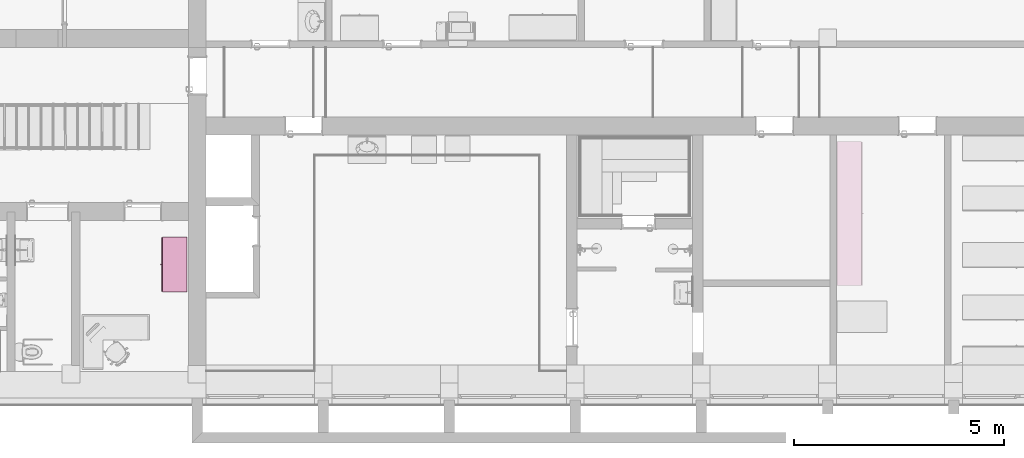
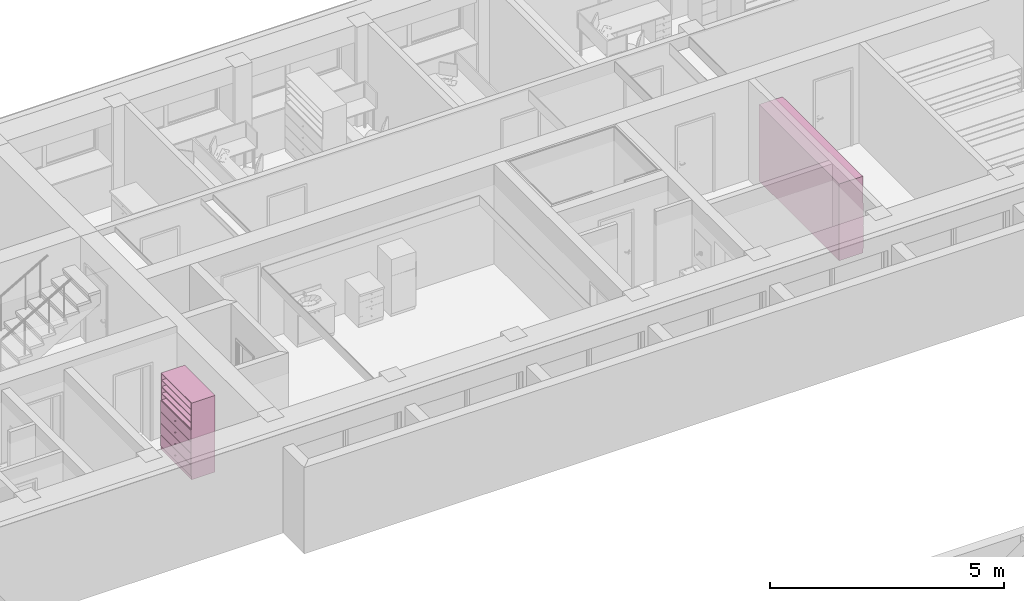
# One storey, part 103 of 127: 2 furnishings.
"""IFC2X3 building model written with IfcOpenShell, lengths in millimetres."""

from ifc_helpers import new_model, entity, si_unit, converted_unit, derived_unit, money_unit, direction, frame, origin_with_axes, place, context, subcontext, project, spatial, faceted_brep, type_object, element, save


model = new_model("IFC2X3")

# Units and contexts
model_context = context("Model", 3, precision=1e-05, world=origin_with_axes(), true_north=direction((0.0, 1.0)))
body_context = subcontext(model_context, "Body", "Model", "MODEL_VIEW")
ifc_project = project(units=[si_unit("LENGTHUNIT", "METRE", prefix="MILLI"), si_unit("AREAUNIT", "SQUARE_METRE"), si_unit("VOLUMEUNIT", "CUBIC_METRE"), converted_unit("PLANEANGLEUNIT", "DEGREE", entity("IfcPlaneAngleMeasure", 0.0174532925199), si_unit("PLANEANGLEUNIT", "RADIAN"), dimensions=[0, 0, 0, 0, 0, 0, 0]), si_unit("SOLIDANGLEUNIT", "STERADIAN"), money_unit("EUR"), converted_unit("TIMEUNIT", "Year", entity("IfcTimeMeasure", 31556926.0), si_unit("TIMEUNIT", "SECOND"), dimensions=[0, 0, 1, 0, 0, 0, 0]), si_unit("MASSUNIT", "GRAM", prefix="KILO"), si_unit("THERMODYNAMICTEMPERATUREUNIT", "DEGREE_CELSIUS"), si_unit("LUMINOUSINTENSITYUNIT", "LUMEN"), si_unit("ENERGYUNIT", "JOULE", prefix="MEGA"), derived_unit("THERMALCONDUCTANCEUNIT", [(si_unit("POWERUNIT", "WATT"), 1), (si_unit("LENGTHUNIT", "METRE"), -1), (si_unit("THERMODYNAMICTEMPERATUREUNIT", "KELVIN"), -1)]), derived_unit("SPECIFICHEATCAPACITYUNIT", [(si_unit("ENERGYUNIT", "JOULE"), 1), (si_unit("MASSUNIT", "GRAM", prefix="KILO"), -1), (si_unit("THERMODYNAMICTEMPERATUREUNIT", "KELVIN"), -1)]), derived_unit("MASSDENSITYUNIT", [(si_unit("MASSUNIT", "GRAM", prefix="KILO"), 1), (si_unit("VOLUMEUNIT", "CUBIC_METRE"), -1)])], contexts=[model_context])

# Site, building, storey
site_placement = place(None, origin_with_axes())
site = spatial("IfcSite", under=ifc_project, at=site_placement, Name="Site", CompositionType="ELEMENT")
building_placement = place(site_placement, origin_with_axes())
building = spatial("IfcBuilding", under=site, at=building_placement, Name="Building", CompositionType="ELEMENT")
storey_placement = place(building_placement, origin_with_axes())
storey = spatial("IfcBuildingStorey", under=building, at=storey_placement, Name="1 KORRUS", CompositionType="ELEMENT", Elevation=0.0)

# Furnishings
furnishing_element_type_1 = type_object("IfcFurnishingElementType", Name="Model Element 47")
furnishing_1_placement = place(storey_placement, frame((15101.4050672, 61481.2440039, 0.0), z_axis=(0.0, 0.0, 1.0), x_axis=(0.0, -1.0, 0.0)))
element("IfcFurnishingElement", 1, at=furnishing_1_placement, inside=storey, type_object=furnishing_element_type_1, Name="FU - 003", context=body_context, shape_type="Brep", body=[
    faceted_brep([(-1300.0, 19.0, 0.0), (-1300.0, 600.000000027, 0.0), (0.0, 600.000000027, 0.0), (0.0, 19.0, 0.0), (-1300.0, 19.0, 100.0), (-1300.0, 600.000000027, 100.0), (0.0, 600.000000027, 100.0), (0.0, 19.0, 100.0)], [[[0, 1, 2, 3]], [[0, 4, 5, 1]], [[1, 5, 6, 2]], [[2, 6, 7, 3]], [[3, 7, 4, 0]], [[7, 6, 5, 4]]]),
    faceted_brep([(-19.0, 600.000000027, 119.0), (-19.0, 600.000000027, 1981.0), (-19.0, 581.000000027, 1981.0), (-19.0, 581.000000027, 119.0), (-1281.0, 600.000000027, 119.0), (-1281.0, 600.000000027, 1981.0), (-1281.0, 581.000000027, 1981.0), (-1281.0, 581.000000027, 119.0)], [[[0, 1, 2, 3]], [[4, 5, 1, 0]], [[1, 5, 6, 2]], [[3, 2, 6, 7]], [[0, 3, 7, 4]], [[7, 6, 5, 4]]]),
    faceted_brep([(-1300.0, 19.0, 100.0), (-1300.0, 600.000000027, 100.0), (-1281.0, 600.000000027, 100.0), (-1281.0, 19.0, 100.0), (-1300.0, 19.0, 2000.0), (-1300.0, 600.000000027, 2000.0), (-1281.0, 600.000000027, 2000.0), (-1281.0, 19.0, 2000.0)], [[[0, 1, 2, 3]], [[0, 4, 5, 1]], [[1, 5, 6, 2]], [[2, 6, 7, 3]], [[3, 7, 4, 0]], [[7, 6, 5, 4]]]),
    faceted_brep([(-19.0, 19.0, 100.0), (-19.0, 600.000000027, 100.0), (0.0, 600.000000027, 100.0), (0.0, 19.0, 100.0), (-19.0, 19.0, 2000.0), (-19.0, 600.000000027, 2000.0), (0.0, 600.000000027, 2000.0), (0.0, 19.0, 2000.0)], [[[0, 1, 2, 3]], [[0, 4, 5, 1]], [[1, 5, 6, 2]], [[2, 6, 7, 3]], [[3, 7, 4, 0]], [[7, 6, 5, 4]]]),
    faceted_brep([(-1281.0, 19.0, 100.0), (-1281.0, 600.000000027, 100.0), (-19.0, 600.000000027, 100.0), (-19.0, 19.0, 100.0), (-1281.0, 19.0, 119.0), (-1281.0, 600.000000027, 119.0), (-19.0, 600.000000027, 119.0), (-19.0, 19.0, 119.0)], [[[0, 1, 2, 3]], [[0, 4, 5, 1]], [[1, 5, 6, 2]], [[2, 6, 7, 3]], [[3, 7, 4, 0]], [[7, 6, 5, 4]]]),
    faceted_brep([(-1281.0, 19.0, 1981.0), (-1281.0, 600.000000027, 1981.0), (-19.0, 600.000000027, 1981.0), (-19.0, 19.0, 1981.0), (-1281.0, 19.0, 2000.0), (-1281.0, 600.000000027, 2000.0), (-19.0, 600.000000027, 2000.0), (-19.0, 19.0, 2000.0)], [[[0, 1, 2, 3]], [[0, 4, 5, 1]], [[1, 5, 6, 2]], [[2, 6, 7, 3]], [[3, 7, 4, 0]], [[7, 6, 5, 4]]]),
    faceted_brep([(-5.0, 19.0, 105.0), (-5.0, 0.0, 105.0), (-1295.0, 0.0, 105.0), (-1295.0, 19.0, 105.0), (-5.0, 19.0, 395.0), (-5.0, 0.0, 395.0), (-1295.0, 0.0, 395.0), (-1295.0, 19.0, 395.0)], [[[0, 1, 2, 3]], [[4, 5, 1, 0]], [[1, 5, 6, 2]], [[3, 2, 6, 7]], [[0, 3, 7, 4]], [[7, 6, 5, 4]]]),
    faceted_brep([(-660.392304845, 0.0, 244.0), (-662.0, 0.0, 250.0), (-660.392304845, 0.0, 256.0), (-656.0, 0.0, 260.392304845), (-650.0, 0.0, 262.0), (-644.0, 0.0, 260.392304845), (-639.607695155, 0.0, 256.0), (-638.0, 0.0, 250.0), (-639.607695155, 0.0, 244.0), (-644.0, 0.0, 239.607695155), (-650.0, 0.0, 238.0), (-656.0, 0.0, 239.607695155), (-660.392304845, -25.0, 244.0), (-662.0, -25.0, 250.0), (-660.392304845, -25.0, 256.0), (-656.0, -25.0, 260.392304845), (-650.0, -25.0, 262.0), (-644.0, -25.0, 260.392304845), (-639.607695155, -25.0, 256.0), (-638.0, -25.0, 250.0), (-639.607695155, -25.0, 244.0), (-644.0, -25.0, 239.607695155), (-650.0, -25.0, 238.0), (-656.0, -25.0, 239.607695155)], [[[0, 1, 2, 3, 4, 5, 6, 7, 8, 9, 10, 11]], [[0, 12, 13, 1]], [[1, 13, 14, 2]], [[2, 14, 15, 3]], [[3, 15, 16, 4]], [[4, 16, 17, 5]], [[5, 17, 18, 6]], [[6, 18, 19, 7]], [[7, 19, 20, 8]], [[8, 20, 21, 9]], [[9, 21, 22, 10]], [[10, 22, 23, 11]], [[11, 23, 12, 0]], [[12, 23, 22, 21, 20, 19, 18, 17, 16, 15, 14, 13]]]),
    faceted_brep([(-5.0, 19.0, 405.0), (-5.0, 0.0, 405.0), (-1295.0, 0.0, 405.0), (-1295.0, 19.0, 405.0), (-5.0, 19.0, 695.0), (-5.0, 0.0, 695.0), (-1295.0, 0.0, 695.0), (-1295.0, 19.0, 695.0)], [[[0, 1, 2, 3]], [[4, 5, 1, 0]], [[1, 5, 6, 2]], [[3, 2, 6, 7]], [[0, 3, 7, 4]], [[7, 6, 5, 4]]]),
    faceted_brep([(-660.392304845, 0.0, 544.0), (-662.0, 0.0, 550.0), (-660.392304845, 0.0, 556.0), (-656.0, 0.0, 560.392304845), (-650.0, 0.0, 562.0), (-644.0, 0.0, 560.392304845), (-639.607695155, 0.0, 556.0), (-638.0, 0.0, 550.0), (-639.607695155, 0.0, 544.0), (-644.0, 0.0, 539.607695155), (-650.0, 0.0, 538.0), (-656.0, 0.0, 539.607695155), (-660.392304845, -25.0, 544.0), (-662.0, -25.0, 550.0), (-660.392304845, -25.0, 556.0), (-656.0, -25.0, 560.392304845), (-650.0, -25.0, 562.0), (-644.0, -25.0, 560.392304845), (-639.607695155, -25.0, 556.0), (-638.0, -25.0, 550.0), (-639.607695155, -25.0, 544.0), (-644.0, -25.0, 539.607695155), (-650.0, -25.0, 538.0), (-656.0, -25.0, 539.607695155)], [[[0, 1, 2, 3, 4, 5, 6, 7, 8, 9, 10, 11]], [[0, 12, 13, 1]], [[1, 13, 14, 2]], [[2, 14, 15, 3]], [[3, 15, 16, 4]], [[4, 16, 17, 5]], [[5, 17, 18, 6]], [[6, 18, 19, 7]], [[7, 19, 20, 8]], [[8, 20, 21, 9]], [[9, 21, 22, 10]], [[10, 22, 23, 11]], [[11, 23, 12, 0]], [[12, 23, 22, 21, 20, 19, 18, 17, 16, 15, 14, 13]]]),
    faceted_brep([(-5.0, 19.0, 705.0), (-5.0, 0.0, 705.0), (-1295.0, 0.0, 705.0), (-1295.0, 19.0, 705.0), (-5.0, 19.0, 995.0), (-5.0, 0.0, 995.0), (-1295.0, 0.0, 995.0), (-1295.0, 19.0, 995.0)], [[[0, 1, 2, 3]], [[4, 5, 1, 0]], [[1, 5, 6, 2]], [[3, 2, 6, 7]], [[0, 3, 7, 4]], [[7, 6, 5, 4]]]),
    faceted_brep([(-660.392304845, 0.0, 844.0), (-662.0, 0.0, 850.0), (-660.392304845, 0.0, 856.0), (-656.0, 0.0, 860.392304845), (-650.0, 0.0, 862.0), (-644.0, 0.0, 860.392304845), (-639.607695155, 0.0, 856.0), (-638.0, 0.0, 850.0), (-639.607695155, 0.0, 844.0), (-644.0, 0.0, 839.607695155), (-650.0, 0.0, 838.0), (-656.0, 0.0, 839.607695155), (-660.392304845, -25.0, 844.0), (-662.0, -25.0, 850.0), (-660.392304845, -25.0, 856.0), (-656.0, -25.0, 860.392304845), (-650.0, -25.0, 862.0), (-644.0, -25.0, 860.392304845), (-639.607695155, -25.0, 856.0), (-638.0, -25.0, 850.0), (-639.607695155, -25.0, 844.0), (-644.0, -25.0, 839.607695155), (-650.0, -25.0, 838.0), (-656.0, -25.0, 839.607695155)], [[[0, 1, 2, 3, 4, 5, 6, 7, 8, 9, 10, 11]], [[0, 12, 13, 1]], [[1, 13, 14, 2]], [[2, 14, 15, 3]], [[3, 15, 16, 4]], [[4, 16, 17, 5]], [[5, 17, 18, 6]], [[6, 18, 19, 7]], [[7, 19, 20, 8]], [[8, 20, 21, 9]], [[9, 21, 22, 10]], [[10, 22, 23, 11]], [[11, 23, 12, 0]], [[12, 23, 22, 21, 20, 19, 18, 17, 16, 15, 14, 13]]]),
    faceted_brep([(-5.0, 19.0, 1005.0), (-5.0, 0.0, 1005.0), (-1295.0, 0.0, 1005.0), (-1295.0, 19.0, 1005.0), (-5.0, 19.0, 1295.0), (-5.0, 0.0, 1295.0), (-1295.0, 0.0, 1295.0), (-1295.0, 19.0, 1295.0)], [[[0, 1, 2, 3]], [[4, 5, 1, 0]], [[1, 5, 6, 2]], [[3, 2, 6, 7]], [[0, 3, 7, 4]], [[7, 6, 5, 4]]]),
    faceted_brep([(-660.392304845, 0.0, 1144.0), (-662.0, 0.0, 1150.0), (-660.392304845, 0.0, 1156.0), (-656.0, 0.0, 1160.39230485), (-650.0, 0.0, 1162.0), (-644.0, 0.0, 1160.39230485), (-639.607695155, 0.0, 1156.0), (-638.0, 0.0, 1150.0), (-639.607695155, 0.0, 1144.0), (-644.0, 0.0, 1139.60769515), (-650.0, 0.0, 1138.0), (-656.0, 0.0, 1139.60769515), (-660.392304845, -25.0, 1144.0), (-662.0, -25.0, 1150.0), (-660.392304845, -25.0, 1156.0), (-656.0, -25.0, 1160.39230485), (-650.0, -25.0, 1162.0), (-644.0, -25.0, 1160.39230485), (-639.607695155, -25.0, 1156.0), (-638.0, -25.0, 1150.0), (-639.607695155, -25.0, 1144.0), (-644.0, -25.0, 1139.60769515), (-650.0, -25.0, 1138.0), (-656.0, -25.0, 1139.60769515)], [[[0, 1, 2, 3, 4, 5, 6, 7, 8, 9, 10, 11]], [[0, 12, 13, 1]], [[1, 13, 14, 2]], [[2, 14, 15, 3]], [[3, 15, 16, 4]], [[4, 16, 17, 5]], [[5, 17, 18, 6]], [[6, 18, 19, 7]], [[7, 19, 20, 8]], [[8, 20, 21, 9]], [[9, 21, 22, 10]], [[10, 22, 23, 11]], [[11, 23, 12, 0]], [[12, 23, 22, 21, 20, 19, 18, 17, 16, 15, 14, 13]]]),
    faceted_brep([(-19.0, 19.0, 390.5), (-19.0, 19.0, 409.5), (-1281.0, 19.0, 409.5), (-1281.0, 19.0, 390.5), (-19.0, 581.000000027, 390.5), (-19.0, 581.000000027, 409.5), (-1281.0, 581.000000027, 409.5), (-1281.0, 581.000000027, 390.5)], [[[0, 1, 2, 3]], [[4, 5, 1, 0]], [[1, 5, 6, 2]], [[3, 2, 6, 7]], [[0, 3, 7, 4]], [[7, 6, 5, 4]]]),
    faceted_brep([(-19.0, 19.0, 690.5), (-19.0, 19.0, 709.5), (-1281.0, 19.0, 709.5), (-1281.0, 19.0, 690.5), (-19.0, 581.000000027, 690.5), (-19.0, 581.000000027, 709.5), (-1281.0, 581.000000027, 709.5), (-1281.0, 581.000000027, 690.5)], [[[0, 1, 2, 3]], [[4, 5, 1, 0]], [[1, 5, 6, 2]], [[3, 2, 6, 7]], [[0, 3, 7, 4]], [[7, 6, 5, 4]]]),
    faceted_brep([(-19.0, 19.0, 990.5), (-19.0, 19.0, 1009.5), (-1281.0, 19.0, 1009.5), (-1281.0, 19.0, 990.5), (-19.0, 581.000000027, 990.5), (-19.0, 581.000000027, 1009.5), (-1281.0, 581.000000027, 1009.5), (-1281.0, 581.000000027, 990.5)], [[[0, 1, 2, 3]], [[4, 5, 1, 0]], [[1, 5, 6, 2]], [[3, 2, 6, 7]], [[0, 3, 7, 4]], [[7, 6, 5, 4]]]),
    faceted_brep([(-19.0, 19.0, 1290.5), (-19.0, 19.0, 1309.5), (-1281.0, 19.0, 1309.5), (-1281.0, 19.0, 1290.5), (-19.0, 581.000000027, 1290.5), (-19.0, 581.000000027, 1309.5), (-1281.0, 581.000000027, 1309.5), (-1281.0, 581.000000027, 1290.5)], [[[0, 1, 2, 3]], [[4, 5, 1, 0]], [[1, 5, 6, 2]], [[3, 2, 6, 7]], [[0, 3, 7, 4]], [[7, 6, 5, 4]]]),
    faceted_brep([(-1281.0, 19.0, 1463.125), (-1281.0, 581.000000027, 1463.125), (-19.0, 581.000000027, 1463.125), (-19.0, 19.0, 1463.125), (-1281.0, 19.0, 1482.125), (-1281.0, 581.000000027, 1482.125), (-19.0, 581.000000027, 1482.125), (-19.0, 19.0, 1482.125)], [[[0, 1, 2, 3]], [[0, 4, 5, 1]], [[1, 5, 6, 2]], [[2, 6, 7, 3]], [[3, 7, 4, 0]], [[7, 6, 5, 4]]]),
    faceted_brep([(-1281.0, 19.0, 1635.75), (-1281.0, 581.000000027, 1635.75), (-19.0, 581.000000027, 1635.75), (-19.0, 19.0, 1635.75), (-1281.0, 19.0, 1654.75), (-1281.0, 581.000000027, 1654.75), (-19.0, 581.000000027, 1654.75), (-19.0, 19.0, 1654.75)], [[[0, 1, 2, 3]], [[0, 4, 5, 1]], [[1, 5, 6, 2]], [[2, 6, 7, 3]], [[3, 7, 4, 0]], [[7, 6, 5, 4]]]),
    faceted_brep([(-1281.0, 19.0, 1808.375), (-1281.0, 581.000000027, 1808.375), (-19.0, 581.000000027, 1808.375), (-19.0, 19.0, 1808.375), (-1281.0, 19.0, 1827.375), (-1281.0, 581.000000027, 1827.375), (-19.0, 581.000000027, 1827.375), (-19.0, 19.0, 1827.375)], [[[0, 1, 2, 3]], [[0, 4, 5, 1]], [[1, 5, 6, 2]], [[2, 6, 7, 3]], [[3, 7, 4, 0]], [[7, 6, 5, 4]]]),
])
furnishing_element_type_2 = type_object("IfcFurnishingElementType", Name="Model Element 53")
furnishing_2_placement = place(storey_placement, frame((31775.0126598, 61629.8317784, 0.0), z_axis=(0.0, 0.0, 1.0), x_axis=(0.0, 1.0, 0.0)))
element("IfcFurnishingElement", 2, at=furnishing_2_placement, inside=storey, type_object=furnishing_element_type_2, Name="FU - 003", context=body_context, shape_type="Brep", body=[
    faceted_brep([(3423.5484155, 19.0, 0.0), (0.0, 19.0, 0.0), (0.0, 600.000000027, 0.0), (3423.5484155, 600.000000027, 0.0), (3423.5484155, 19.0, 100.0), (0.0, 19.0, 100.0), (0.0, 600.000000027, 100.0), (3423.5484155, 600.000000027, 100.0)], [[[0, 1, 2, 3]], [[1, 0, 4, 5]], [[2, 1, 5, 6]], [[3, 2, 6, 7]], [[0, 3, 7, 4]], [[5, 4, 7, 6]]]),
    faceted_brep([(19.0, 600.000000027, 119.0), (19.0, 581.000000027, 119.0), (19.0, 581.000000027, 1981.0), (19.0, 600.000000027, 1981.0), (3404.5484155, 600.000000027, 119.0), (3404.5484155, 581.000000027, 119.0), (3404.5484155, 581.000000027, 1981.0), (3404.5484155, 600.000000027, 1981.0)], [[[0, 1, 2, 3]], [[0, 4, 5, 1]], [[1, 5, 6, 2]], [[3, 2, 6, 7]], [[4, 0, 3, 7]], [[5, 4, 7, 6]]]),
    faceted_brep([(3423.5484155, 19.0, 100.0), (3404.5484155, 19.0, 100.0), (3404.5484155, 600.000000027, 100.0), (3423.5484155, 600.000000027, 100.0), (3423.5484155, 19.0, 2000.0), (3404.5484155, 19.0, 2000.0), (3404.5484155, 600.000000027, 2000.0), (3423.5484155, 600.000000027, 2000.0)], [[[0, 1, 2, 3]], [[1, 0, 4, 5]], [[2, 1, 5, 6]], [[3, 2, 6, 7]], [[0, 3, 7, 4]], [[5, 4, 7, 6]]]),
    faceted_brep([(19.0, 19.0, 100.0), (0.0, 19.0, 100.0), (0.0, 600.000000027, 100.0), (19.0, 600.000000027, 100.0), (19.0, 19.0, 2000.0), (0.0, 19.0, 2000.0), (0.0, 600.000000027, 2000.0), (19.0, 600.000000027, 2000.0)], [[[0, 1, 2, 3]], [[1, 0, 4, 5]], [[2, 1, 5, 6]], [[3, 2, 6, 7]], [[0, 3, 7, 4]], [[5, 4, 7, 6]]]),
    faceted_brep([(3404.5484155, 19.0, 100.0), (19.0, 19.0, 100.0), (19.0, 600.000000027, 100.0), (3404.5484155, 600.000000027, 100.0), (3404.5484155, 19.0, 119.0), (19.0, 19.0, 119.0), (19.0, 600.000000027, 119.0), (3404.5484155, 600.000000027, 119.0)], [[[0, 1, 2, 3]], [[1, 0, 4, 5]], [[2, 1, 5, 6]], [[3, 2, 6, 7]], [[0, 3, 7, 4]], [[5, 4, 7, 6]]]),
    faceted_brep([(3404.5484155, 19.0, 1981.0), (19.0, 19.0, 1981.0), (19.0, 600.000000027, 1981.0), (3404.5484155, 600.000000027, 1981.0), (3404.5484155, 19.0, 2000.0), (19.0, 19.0, 2000.0), (19.0, 600.000000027, 2000.0), (3404.5484155, 600.000000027, 2000.0)], [[[0, 1, 2, 3]], [[1, 0, 4, 5]], [[2, 1, 5, 6]], [[3, 2, 6, 7]], [[0, 3, 7, 4]], [[5, 4, 7, 6]]]),
    faceted_brep([(5.0, 19.0, 105.0), (3418.5484155, 19.0, 105.0), (3418.5484155, 0.0, 105.0), (5.0, 0.0, 105.0), (5.0, 19.0, 395.0), (3418.5484155, 19.0, 395.0), (3418.5484155, 0.0, 395.0), (5.0, 0.0, 395.0)], [[[0, 1, 2, 3]], [[0, 4, 5, 1]], [[1, 5, 6, 2]], [[3, 2, 6, 7]], [[4, 0, 3, 7]], [[5, 4, 7, 6]]]),
    faceted_brep([(1722.16651259, 0.0, 244.0), (1717.77420775, 0.0, 239.607695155), (1711.77420775, 0.0, 238.0), (1705.77420775, 0.0, 239.607695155), (1701.3819029, 0.0, 244.0), (1699.77420775, 0.0, 250.0), (1701.3819029, 0.0, 256.0), (1705.77420775, 0.0, 260.392304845), (1711.77420775, 0.0, 262.0), (1717.77420775, 0.0, 260.392304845), (1722.16651259, 0.0, 256.0), (1723.77420775, 0.0, 250.0), (1722.16651259, -25.0, 244.0), (1717.77420775, -25.0, 239.607695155), (1711.77420775, -25.0, 238.0), (1705.77420775, -25.0, 239.607695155), (1701.3819029, -25.0, 244.0), (1699.77420775, -25.0, 250.0), (1701.3819029, -25.0, 256.0), (1705.77420775, -25.0, 260.392304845), (1711.77420775, -25.0, 262.0), (1717.77420775, -25.0, 260.392304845), (1722.16651259, -25.0, 256.0), (1723.77420775, -25.0, 250.0)], [[[0, 1, 2, 3, 4, 5, 6, 7, 8, 9, 10, 11]], [[1, 0, 12, 13]], [[2, 1, 13, 14]], [[3, 2, 14, 15]], [[4, 3, 15, 16]], [[5, 4, 16, 17]], [[6, 5, 17, 18]], [[7, 6, 18, 19]], [[8, 7, 19, 20]], [[9, 8, 20, 21]], [[10, 9, 21, 22]], [[11, 10, 22, 23]], [[0, 11, 23, 12]], [[12, 23, 22, 21, 20, 19, 18, 17, 16, 15, 14, 13]]]),
    faceted_brep([(5.0, 19.0, 405.0), (3418.5484155, 19.0, 405.0), (3418.5484155, 0.0, 405.0), (5.0, 0.0, 405.0), (5.0, 19.0, 695.0), (3418.5484155, 19.0, 695.0), (3418.5484155, 0.0, 695.0), (5.0, 0.0, 695.0)], [[[0, 1, 2, 3]], [[0, 4, 5, 1]], [[1, 5, 6, 2]], [[3, 2, 6, 7]], [[4, 0, 3, 7]], [[5, 4, 7, 6]]]),
    faceted_brep([(1722.16651259, 0.0, 544.0), (1717.77420775, 0.0, 539.607695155), (1711.77420775, 0.0, 538.0), (1705.77420775, 0.0, 539.607695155), (1701.3819029, 0.0, 544.0), (1699.77420775, 0.0, 550.0), (1701.3819029, 0.0, 556.0), (1705.77420775, 0.0, 560.392304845), (1711.77420775, 0.0, 562.0), (1717.77420775, 0.0, 560.392304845), (1722.16651259, 0.0, 556.0), (1723.77420775, 0.0, 550.0), (1722.16651259, -25.0, 544.0), (1717.77420775, -25.0, 539.607695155), (1711.77420775, -25.0, 538.0), (1705.77420775, -25.0, 539.607695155), (1701.3819029, -25.0, 544.0), (1699.77420775, -25.0, 550.0), (1701.3819029, -25.0, 556.0), (1705.77420775, -25.0, 560.392304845), (1711.77420775, -25.0, 562.0), (1717.77420775, -25.0, 560.392304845), (1722.16651259, -25.0, 556.0), (1723.77420775, -25.0, 550.0)], [[[0, 1, 2, 3, 4, 5, 6, 7, 8, 9, 10, 11]], [[1, 0, 12, 13]], [[2, 1, 13, 14]], [[3, 2, 14, 15]], [[4, 3, 15, 16]], [[5, 4, 16, 17]], [[6, 5, 17, 18]], [[7, 6, 18, 19]], [[8, 7, 19, 20]], [[9, 8, 20, 21]], [[10, 9, 21, 22]], [[11, 10, 22, 23]], [[0, 11, 23, 12]], [[12, 23, 22, 21, 20, 19, 18, 17, 16, 15, 14, 13]]]),
    faceted_brep([(5.0, 19.0, 705.0), (3418.5484155, 19.0, 705.0), (3418.5484155, 0.0, 705.0), (5.0, 0.0, 705.0), (5.0, 19.0, 995.0), (3418.5484155, 19.0, 995.0), (3418.5484155, 0.0, 995.0), (5.0, 0.0, 995.0)], [[[0, 1, 2, 3]], [[0, 4, 5, 1]], [[1, 5, 6, 2]], [[3, 2, 6, 7]], [[4, 0, 3, 7]], [[5, 4, 7, 6]]]),
    faceted_brep([(1722.16651259, 0.0, 844.0), (1717.77420775, 0.0, 839.607695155), (1711.77420775, 0.0, 838.0), (1705.77420775, 0.0, 839.607695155), (1701.3819029, 0.0, 844.0), (1699.77420775, 0.0, 850.0), (1701.3819029, 0.0, 856.0), (1705.77420775, 0.0, 860.392304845), (1711.77420775, 0.0, 862.0), (1717.77420775, 0.0, 860.392304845), (1722.16651259, 0.0, 856.0), (1723.77420775, 0.0, 850.0), (1722.16651259, -25.0, 844.0), (1717.77420775, -25.0, 839.607695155), (1711.77420775, -25.0, 838.0), (1705.77420775, -25.0, 839.607695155), (1701.3819029, -25.0, 844.0), (1699.77420775, -25.0, 850.0), (1701.3819029, -25.0, 856.0), (1705.77420775, -25.0, 860.392304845), (1711.77420775, -25.0, 862.0), (1717.77420775, -25.0, 860.392304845), (1722.16651259, -25.0, 856.0), (1723.77420775, -25.0, 850.0)], [[[0, 1, 2, 3, 4, 5, 6, 7, 8, 9, 10, 11]], [[1, 0, 12, 13]], [[2, 1, 13, 14]], [[3, 2, 14, 15]], [[4, 3, 15, 16]], [[5, 4, 16, 17]], [[6, 5, 17, 18]], [[7, 6, 18, 19]], [[8, 7, 19, 20]], [[9, 8, 20, 21]], [[10, 9, 21, 22]], [[11, 10, 22, 23]], [[0, 11, 23, 12]], [[12, 23, 22, 21, 20, 19, 18, 17, 16, 15, 14, 13]]]),
    faceted_brep([(5.0, 19.0, 1005.0), (3418.5484155, 19.0, 1005.0), (3418.5484155, 0.0, 1005.0), (5.0, 0.0, 1005.0), (5.0, 19.0, 1295.0), (3418.5484155, 19.0, 1295.0), (3418.5484155, 0.0, 1295.0), (5.0, 0.0, 1295.0)], [[[0, 1, 2, 3]], [[0, 4, 5, 1]], [[1, 5, 6, 2]], [[3, 2, 6, 7]], [[4, 0, 3, 7]], [[5, 4, 7, 6]]]),
    faceted_brep([(1722.16651259, 0.0, 1144.0), (1717.77420775, 0.0, 1139.60769515), (1711.77420775, 0.0, 1138.0), (1705.77420775, 0.0, 1139.60769515), (1701.3819029, 0.0, 1144.0), (1699.77420775, 0.0, 1150.0), (1701.3819029, 0.0, 1156.0), (1705.77420775, 0.0, 1160.39230485), (1711.77420775, 0.0, 1162.0), (1717.77420775, 0.0, 1160.39230485), (1722.16651259, 0.0, 1156.0), (1723.77420775, 0.0, 1150.0), (1722.16651259, -25.0, 1144.0), (1717.77420775, -25.0, 1139.60769515), (1711.77420775, -25.0, 1138.0), (1705.77420775, -25.0, 1139.60769515), (1701.3819029, -25.0, 1144.0), (1699.77420775, -25.0, 1150.0), (1701.3819029, -25.0, 1156.0), (1705.77420775, -25.0, 1160.39230485), (1711.77420775, -25.0, 1162.0), (1717.77420775, -25.0, 1160.39230485), (1722.16651259, -25.0, 1156.0), (1723.77420775, -25.0, 1150.0)], [[[0, 1, 2, 3, 4, 5, 6, 7, 8, 9, 10, 11]], [[1, 0, 12, 13]], [[2, 1, 13, 14]], [[3, 2, 14, 15]], [[4, 3, 15, 16]], [[5, 4, 16, 17]], [[6, 5, 17, 18]], [[7, 6, 18, 19]], [[8, 7, 19, 20]], [[9, 8, 20, 21]], [[10, 9, 21, 22]], [[11, 10, 22, 23]], [[0, 11, 23, 12]], [[12, 23, 22, 21, 20, 19, 18, 17, 16, 15, 14, 13]]]),
    faceted_brep([(19.0, 19.0, 390.5), (3404.5484155, 19.0, 390.5), (3404.5484155, 19.0, 409.5), (19.0, 19.0, 409.5), (19.0, 581.000000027, 390.5), (3404.5484155, 581.000000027, 390.5), (3404.5484155, 581.000000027, 409.5), (19.0, 581.000000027, 409.5)], [[[0, 1, 2, 3]], [[0, 4, 5, 1]], [[1, 5, 6, 2]], [[3, 2, 6, 7]], [[4, 0, 3, 7]], [[5, 4, 7, 6]]]),
    faceted_brep([(19.0, 19.0, 690.5), (3404.5484155, 19.0, 690.5), (3404.5484155, 19.0, 709.5), (19.0, 19.0, 709.5), (19.0, 581.000000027, 690.5), (3404.5484155, 581.000000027, 690.5), (3404.5484155, 581.000000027, 709.5), (19.0, 581.000000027, 709.5)], [[[0, 1, 2, 3]], [[0, 4, 5, 1]], [[1, 5, 6, 2]], [[3, 2, 6, 7]], [[4, 0, 3, 7]], [[5, 4, 7, 6]]]),
    faceted_brep([(19.0, 19.0, 990.5), (3404.5484155, 19.0, 990.5), (3404.5484155, 19.0, 1009.5), (19.0, 19.0, 1009.5), (19.0, 581.000000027, 990.5), (3404.5484155, 581.000000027, 990.5), (3404.5484155, 581.000000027, 1009.5), (19.0, 581.000000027, 1009.5)], [[[0, 1, 2, 3]], [[0, 4, 5, 1]], [[1, 5, 6, 2]], [[3, 2, 6, 7]], [[4, 0, 3, 7]], [[5, 4, 7, 6]]]),
    faceted_brep([(19.0, 19.0, 1290.5), (3404.5484155, 19.0, 1290.5), (3404.5484155, 19.0, 1309.5), (19.0, 19.0, 1309.5), (19.0, 581.000000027, 1290.5), (3404.5484155, 581.000000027, 1290.5), (3404.5484155, 581.000000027, 1309.5), (19.0, 581.000000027, 1309.5)], [[[0, 1, 2, 3]], [[0, 4, 5, 1]], [[1, 5, 6, 2]], [[3, 2, 6, 7]], [[4, 0, 3, 7]], [[5, 4, 7, 6]]]),
    faceted_brep([(3404.5484155, 19.0, 1463.125), (19.0, 19.0, 1463.125), (19.0, 581.000000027, 1463.125), (3404.5484155, 581.000000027, 1463.125), (3404.5484155, 19.0, 1482.125), (19.0, 19.0, 1482.125), (19.0, 581.000000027, 1482.125), (3404.5484155, 581.000000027, 1482.125)], [[[0, 1, 2, 3]], [[1, 0, 4, 5]], [[2, 1, 5, 6]], [[3, 2, 6, 7]], [[0, 3, 7, 4]], [[5, 4, 7, 6]]]),
    faceted_brep([(3404.5484155, 19.0, 1635.75), (19.0, 19.0, 1635.75), (19.0, 581.000000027, 1635.75), (3404.5484155, 581.000000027, 1635.75), (3404.5484155, 19.0, 1654.75), (19.0, 19.0, 1654.75), (19.0, 581.000000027, 1654.75), (3404.5484155, 581.000000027, 1654.75)], [[[0, 1, 2, 3]], [[1, 0, 4, 5]], [[2, 1, 5, 6]], [[3, 2, 6, 7]], [[0, 3, 7, 4]], [[5, 4, 7, 6]]]),
    faceted_brep([(3404.5484155, 19.0, 1808.375), (19.0, 19.0, 1808.375), (19.0, 581.000000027, 1808.375), (3404.5484155, 581.000000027, 1808.375), (3404.5484155, 19.0, 1827.375), (19.0, 19.0, 1827.375), (19.0, 581.000000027, 1827.375), (3404.5484155, 581.000000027, 1827.375)], [[[0, 1, 2, 3]], [[1, 0, 4, 5]], [[2, 1, 5, 6]], [[3, 2, 6, 7]], [[0, 3, 7, 4]], [[5, 4, 7, 6]]]),
])

save(model, "model.ifc")
